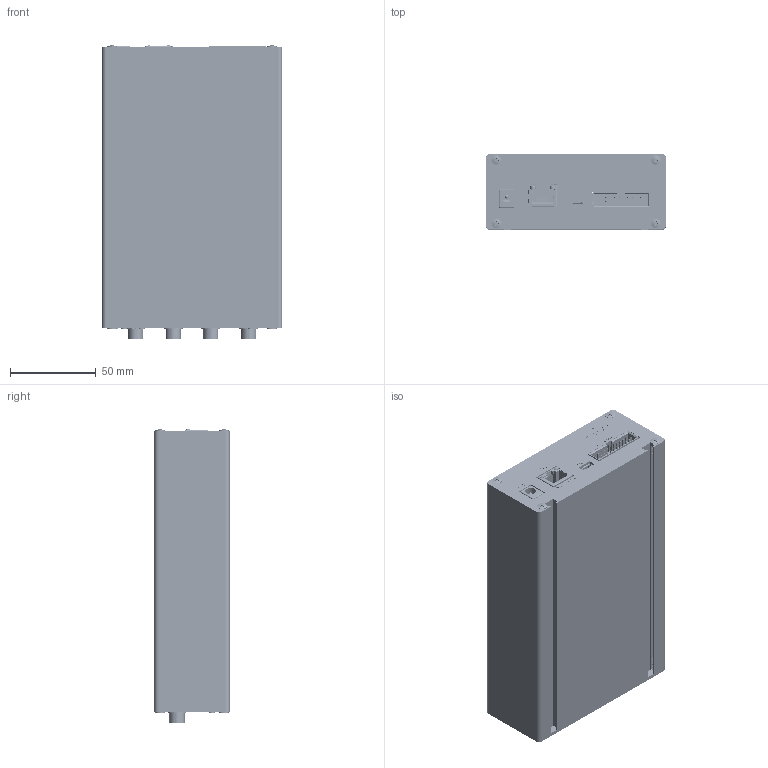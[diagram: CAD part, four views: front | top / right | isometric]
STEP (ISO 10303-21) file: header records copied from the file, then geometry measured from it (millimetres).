
FILE_DESCRIPTION (( 'STEP AP214' ), '1' );
FILE_NAME ('146-780-00_Rev-0-02_Envelope_EXT.STEP', '2026-08-26T12:57:19', ( '' ), ( '' ), 'SwSTEP 2.0', 'SolidWorks 2024', '' );
FILE_SCHEMA (( 'AUTOMOTIVE_DESIGN' ));
Length unit declared in the file: millimetre
Products named in the file (14): 146-786-00; 133-814-00_Einbau; 146-822-00; 146-716-00; 132-281-01_01; 145-946-00; 146-720-00; 146-787-00; 146-780-00_Rev-0-02_Envelope_EXT; 146-721-00; 146-714-00; 132-721-00_Einbau; 146-715-00; 146-788-00
Assembly tree (31 placements, depth 3):
  146-780-00_Rev-0-02_Envelope_EXT
    146-714-00
    146-715-00
    146-716-00
    146-720-00
    146-721-00
    146-786-00  x8
    146-787-00  x5
    146-788-00  x5
    133-814-00_Einbau  x4
      132-281-01_01
      132-721-00_Einbau
    146-822-00
    145-946-00
Bounding box: 105 x 44 x 171.23 mm (x, y, z)
Volume: 190942 mm3; surface area: 203751.7 mm2
Topology: 13 solids, 217 shells, 5338 faces, 16244 edges, 11121 vertices
Faces by surface type: plane 3415, cylinder 1055, bspline 481, cone 380, sphere 5, torus 2
Full cylindrical faces by diameter (mm): 0.3 x29, 0.702 x24, 0.8 x55, 0.85 x7, 0.9 x2, 0.92 x1, 0.95 x2, 1 x29, 1.1 x35, 1.2 x6, 1.3 x3, 1.58 x2, 1.6 x3, 1.7 x2, 2 x2, 2.4 x1, 2.459 x1, 2.642 x5, 2.845 x5, 2.896 x5, 3 x135, 3.099 x5, 3.302 x5, 3.4 x8, 4.318 x5, 4.4 x1, 5.6 x12, 5.7 x4, 6 x1, 6.3 x1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
Entity records: 145502 total; most frequent: CARTESIAN_POINT 42645, ORIENTED_EDGE 19705, DIRECTION 19334, EDGE_CURVE 11868, LINE 8922, VECTOR 8922, VERTEX_POINT 8549, AXIS2_PLACEMENT_3D 5206
